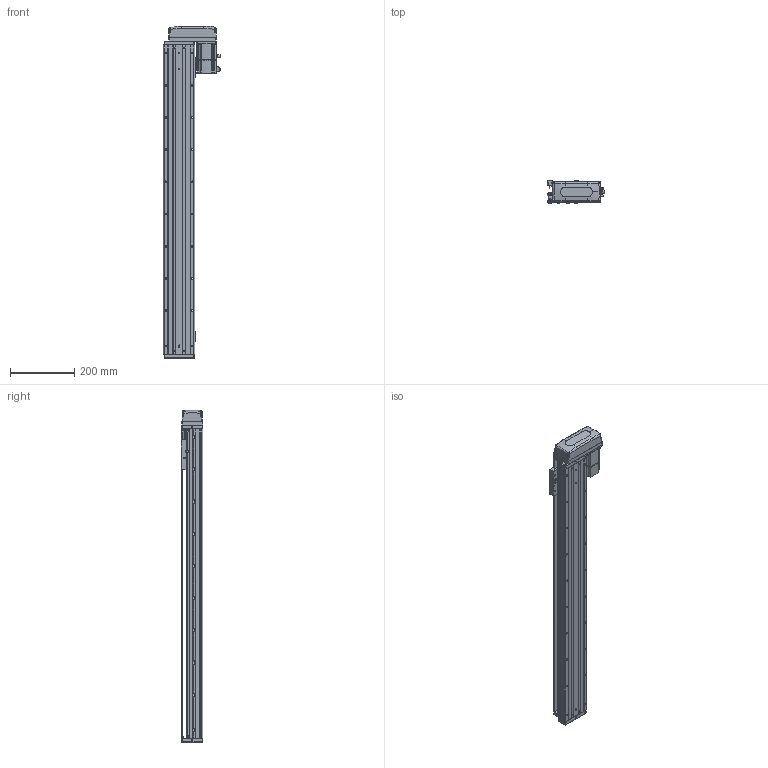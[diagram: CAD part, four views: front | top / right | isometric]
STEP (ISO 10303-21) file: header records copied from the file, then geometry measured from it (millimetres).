
FILE_DESCRIPTION (( 'STEP AP203' ), '1' );
FILE_NAME ('KTHA100-800-BL-M20-C4L.step', '2022-04-26T01:50:04', ( '微软用户' ), ( '微软中国' ), 'SwSTEP 2.0', 'SolidWorks 2020', '' );
FILE_SCHEMA (( 'CONFIG_CONTROL_DESIGN' ));
Length unit declared in the file: millimetre
Products named in the file (17): GBT70.1 M5℅16; GB¨uT 70.2-M3¡Á5_M3¡Á6; CTHA60-016; EE_SX911P_R; GBT 70.3-M3℅6; CTHA60-017; _X2_4E0983F1_X0_200W_1; CTHA60-021; CTHA86-015-1_CTHA86-015-2; GBT77-2000 M3×3; CTHA86-033; KTHA100-001_960; KTHA100-004; GBT 70.1-M3℅6; KTHA100-800-BL-M20-C4L; KTHA100-002; KTHA100-005
Assembly tree (57 placements, depth 2):
  KTHA100-800-BL-M20-C4L
    KTHA100-001_960
    KTHA100-002
    KTHA100-004
    KTHA100-005
    GB¨uT 70.2-M3¡Á5_M3¡Á6  x6
    EE_SX911P_R  x3
    CTHA60-017  x3
    CTHA60-021  x2
    GBT77-2000 M3×3  x6
    GBT 70.1-M3℅6  x10
    GBT70.1 M5℅16  x14
    CTHA60-016  x2
    GBT 70.3-M3℅6  x4
    _X2_4E0983F1_X0_200W_1
    CTHA86-015-1_CTHA86-015-2
    CTHA86-033
Bounding box: 177.7 x 68 x 1031 mm (x, y, z)
Volume: 4406233.1 mm3; surface area: 715286.9 mm2
Topology: 60 solids, 60 shells, 2477 faces, 5945 edges, 3688 vertices
Faces by surface type: plane 1268, cylinder 689, cone 313, torus 116, bspline 75, sphere 16
Entity records: 43240 total; most frequent: CARTESIAN_POINT 8672, DIRECTION 6712, ORIENTED_EDGE 6502, EDGE_CURVE 3251, AXIS2_PLACEMENT_3D 2336, VERTEX_POINT 2048, VECTOR 2040, LINE 2040
